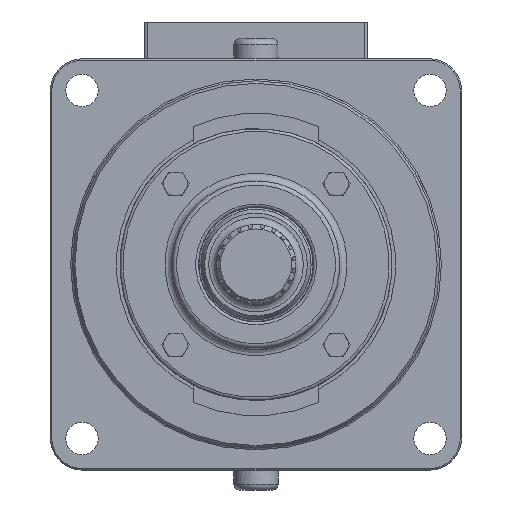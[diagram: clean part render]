
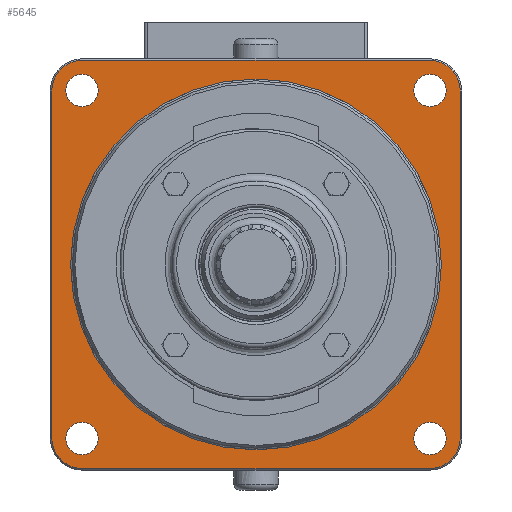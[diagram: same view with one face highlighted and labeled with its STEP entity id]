
A CAD part, left-side view. The second image highlights one B-rep face of the part: STEP entity #5645.
In plain terms, the highlighted planar face has unit normal (-1, 0, 0).
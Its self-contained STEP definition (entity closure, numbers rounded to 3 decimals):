
#4727=CARTESIAN_POINT('',(174.278,-229.347,26.54));
#4728=VERTEX_POINT('',#4727);
#4729=CARTESIAN_POINT('',(174.278,-218.347,26.54));
#4730=DIRECTION('',(1.0,0.0,0.0));
#4731=DIRECTION('',(0.0,1.0,0.0));
#4732=AXIS2_PLACEMENT_3D('',#4729,#4730,#4731);
#4733=CIRCLE('',#4732,11.0);
#4734=EDGE_CURVE('',#4728,#4728,#4733,.T.);
#4755=CARTESIAN_POINT('',(174.278,-466.228,-210.34));
#4756=VERTEX_POINT('',#4755);
#4757=CARTESIAN_POINT('',(174.278,-455.228,-210.34));
#4758=DIRECTION('',(1.0,0.0,0.0));
#4759=DIRECTION('',(0.0,1.0,0.0));
#4760=AXIS2_PLACEMENT_3D('',#4757,#4758,#4759);
#4761=CIRCLE('',#4760,11.0);
#4762=EDGE_CURVE('',#4756,#4756,#4761,.T.);
#4783=CARTESIAN_POINT('',(174.278,-229.347,-210.34));
#4784=VERTEX_POINT('',#4783);
#4785=CARTESIAN_POINT('',(174.278,-218.347,-210.34));
#4786=DIRECTION('',(1.0,0.0,0.0));
#4787=DIRECTION('',(0.0,1.0,0.0));
#4788=AXIS2_PLACEMENT_3D('',#4785,#4786,#4787);
#4789=CIRCLE('',#4788,11.0);
#4790=EDGE_CURVE('',#4784,#4784,#4789,.T.);
#4811=CARTESIAN_POINT('',(174.278,-466.228,26.54));
#4812=VERTEX_POINT('',#4811);
#4813=CARTESIAN_POINT('',(174.278,-455.228,26.54));
#4814=DIRECTION('',(1.0,0.0,0.0));
#4815=DIRECTION('',(0.0,1.0,0.0));
#4816=AXIS2_PLACEMENT_3D('',#4813,#4814,#4815);
#4817=CIRCLE('',#4816,11.0);
#4818=EDGE_CURVE('',#4812,#4812,#4817,.T.);
#4869=CARTESIAN_POINT('',(174.278,-218.787,-230.9));
#4870=VERTEX_POINT('',#4869);
#4878=CARTESIAN_POINT('',(174.278,-454.787,-230.9));
#4879=VERTEX_POINT('',#4878);
#4886=CARTESIAN_POINT('',(174.278,-454.787,-230.9));
#4887=DIRECTION('',(0.0,1.0,0.0));
#4888=VECTOR('',#4887,236.);
#4889=LINE('',#4886,#4888);
#4890=EDGE_CURVE('',#4879,#4870,#4889,.T.);
#4908=CARTESIAN_POINT('',(174.278,-475.787,-209.9));
#4909=VERTEX_POINT('',#4908);
#4916=CARTESIAN_POINT('',(174.278,-454.787,-209.9));
#4917=DIRECTION('',(1.,0.,0.));
#4918=DIRECTION('',(0.,-0.707,-0.707));
#4919=AXIS2_PLACEMENT_3D('',#4916,#4917,#4918);
#4920=CIRCLE('',#4919,21.);
#4921=EDGE_CURVE('',#4909,#4879,#4920,.T.);
#4932=CARTESIAN_POINT('',(174.278,-197.787,-209.9));
#4933=VERTEX_POINT('',#4932);
#4934=CARTESIAN_POINT('',(174.278,-218.787,-209.9));
#4935=DIRECTION('',(1.0,0.,0.));
#4936=DIRECTION('',(0.,0.707,-0.707));
#4937=AXIS2_PLACEMENT_3D('',#4934,#4935,#4936);
#4938=CIRCLE('',#4937,21.);
#4939=EDGE_CURVE('',#4870,#4933,#4938,.T.);
#4966=CARTESIAN_POINT('',(174.278,-475.787,26.1));
#4967=VERTEX_POINT('',#4966);
#4974=CARTESIAN_POINT('',(174.278,-475.787,26.1));
#4975=DIRECTION('',(0.0,0.0,-1.0));
#4976=VECTOR('',#4975,236.0);
#4977=LINE('',#4974,#4976);
#4978=EDGE_CURVE('',#4967,#4909,#4977,.T.);
#4989=CARTESIAN_POINT('',(174.278,-197.787,26.1));
#4990=VERTEX_POINT('',#4989);
#4991=CARTESIAN_POINT('',(174.278,-197.787,-209.9));
#4992=DIRECTION('',(0.0,0.0,1.0));
#4993=VECTOR('',#4992,236.0);
#4994=LINE('',#4991,#4993);
#4995=EDGE_CURVE('',#4933,#4990,#4994,.T.);
#5021=CARTESIAN_POINT('',(174.278,-454.787,47.1));
#5022=VERTEX_POINT('',#5021);
#5029=CARTESIAN_POINT('',(174.278,-454.787,26.1));
#5030=DIRECTION('',(1.,0.,0.));
#5031=DIRECTION('',(0.,-0.707,0.707));
#5032=AXIS2_PLACEMENT_3D('',#5029,#5030,#5031);
#5033=CIRCLE('',#5032,21.);
#5034=EDGE_CURVE('',#5022,#4967,#5033,.T.);
#5045=CARTESIAN_POINT('',(174.278,-218.787,47.1));
#5046=VERTEX_POINT('',#5045);
#5047=CARTESIAN_POINT('',(174.278,-218.787,26.1));
#5048=DIRECTION('',(1.,0.,0.));
#5049=DIRECTION('',(0.,0.707,0.707));
#5050=AXIS2_PLACEMENT_3D('',#5047,#5048,#5049);
#5051=CIRCLE('',#5050,21.);
#5052=EDGE_CURVE('',#4990,#5046,#5051,.T.);
#5078=CARTESIAN_POINT('',(174.278,-218.787,47.1));
#5079=DIRECTION('',(0.0,-1.0,0.0));
#5080=VECTOR('',#5079,236.0);
#5081=LINE('',#5078,#5080);
#5082=EDGE_CURVE('',#5046,#5022,#5081,.T.);
#5607=CARTESIAN_POINT('',(174.278,-336.787,-91.9));
#5608=DIRECTION('',(-1.0,0.0,0.0));
#5609=DIRECTION('',(0.0,-1.0,0.0));
#5610=AXIS2_PLACEMENT_3D('',#5607,#5608,#5609);
#5611=PLANE('',#5610);
#5612=ORIENTED_EDGE('',*,*,#5082,.F.);
#5613=ORIENTED_EDGE('',*,*,#5052,.F.);
#5614=ORIENTED_EDGE('',*,*,#4995,.F.);
#5615=ORIENTED_EDGE('',*,*,#4939,.F.);
#5616=ORIENTED_EDGE('',*,*,#4890,.F.);
#5617=ORIENTED_EDGE('',*,*,#4921,.F.);
#5618=ORIENTED_EDGE('',*,*,#4978,.F.);
#5619=ORIENTED_EDGE('',*,*,#5034,.F.);
#5620=EDGE_LOOP('',(#5612,#5613,#5614,#5615,#5616,#5617,#5618,#5619));
#5621=FACE_OUTER_BOUND('',#5620,.T.);
#5622=ORIENTED_EDGE('',*,*,#4818,.T.);
#5623=EDGE_LOOP('',(#5622));
#5624=FACE_BOUND('',#5623,.T.);
#5625=ORIENTED_EDGE('',*,*,#4790,.T.);
#5626=EDGE_LOOP('',(#5625));
#5627=FACE_BOUND('',#5626,.T.);
#5628=ORIENTED_EDGE('',*,*,#4762,.T.);
#5629=EDGE_LOOP('',(#5628));
#5630=FACE_BOUND('',#5629,.T.);
#5631=ORIENTED_EDGE('',*,*,#4734,.T.);
#5632=EDGE_LOOP('',(#5631));
#5633=FACE_BOUND('',#5632,.T.);
#5634=CARTESIAN_POINT('',(174.278,-462.987,-91.9));
#5635=VERTEX_POINT('',#5634);
#5636=CARTESIAN_POINT('',(174.278,-336.787,-91.9));
#5637=DIRECTION('',(-1.0,0.0,0.0));
#5638=DIRECTION('',(0.0,1.0,0.0));
#5639=AXIS2_PLACEMENT_3D('',#5636,#5637,#5638);
#5640=CIRCLE('',#5639,126.2);
#5641=EDGE_CURVE('',#5635,#5635,#5640,.T.);
#5642=ORIENTED_EDGE('',*,*,#5641,.F.);
#5643=EDGE_LOOP('',(#5642));
#5644=FACE_BOUND('',#5643,.T.);
#5645=ADVANCED_FACE('',(#5621,#5624,#5627,#5630,#5633,#5644),#5611,.T.);
